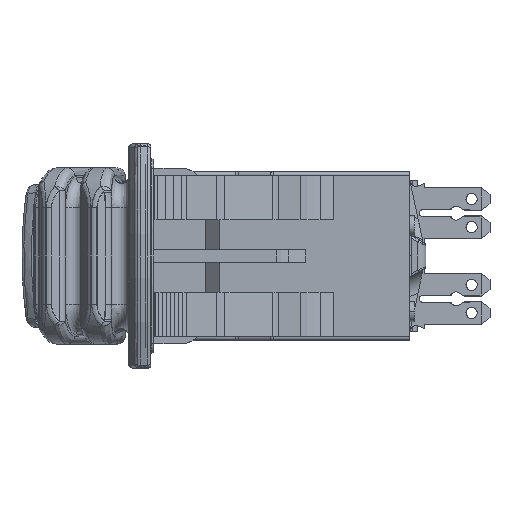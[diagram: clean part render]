
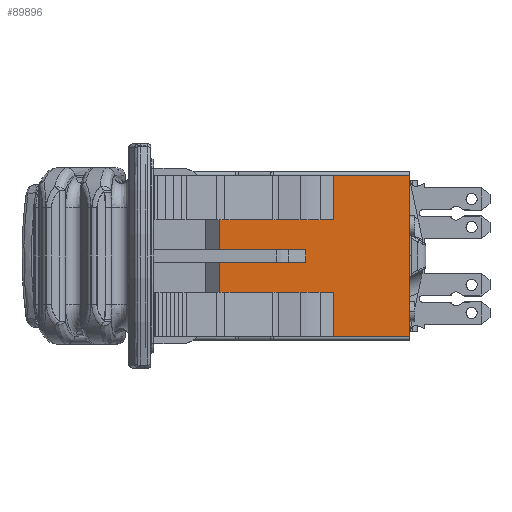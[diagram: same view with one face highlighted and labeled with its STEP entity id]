
A CAD part, left-side view. The second image highlights one B-rep face of the part: STEP entity #89896.
In plain terms, the highlighted planar face has unit normal (-1, 0, 0).
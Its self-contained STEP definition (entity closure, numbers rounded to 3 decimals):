
#13859=DIRECTION('',(0.,0.,1.));
#13860=VECTOR('',#13859,20.2);
#13861=CARTESIAN_POINT('',(-20.5,0.,-10.1));
#13862=LINE('',#13861,#13860);
#27696=DIRECTION('',(0.,-1.,0.));
#27697=VECTOR('',#27696,4.619);
#27698=CARTESIAN_POINT('',(-20.5,21.633,-4.5));
#27699=LINE('',#27698,#27697);
#27908=DIRECTION('',(0.,-1.,0.));
#27909=VECTOR('',#27908,4.625);
#27910=CARTESIAN_POINT('',(-20.5,14.125,-4.5));
#27911=LINE('',#27910,#27909);
#28044=DIRECTION('',(0.,1.,0.));
#28045=VECTOR('',#28044,4.625);
#28046=CARTESIAN_POINT('',(-20.5,9.5,-10.));
#28047=LINE('',#28046,#28045);
#28149=DIRECTION('',(0.,0.,1.));
#28150=VECTOR('',#28149,5.5);
#28151=CARTESIAN_POINT('',(-20.5,14.125,-10.));
#28152=LINE('',#28151,#28150);
#28153=DIRECTION('',(0.,0.,1.));
#28154=VECTOR('',#28153,5.5);
#28155=CARTESIAN_POINT('',(-20.5,9.5,-10.));
#28156=LINE('',#28155,#28154);
#28157=DIRECTION('',(0.,0.,1.));
#28158=VECTOR('',#28157,5.5);
#28159=CARTESIAN_POINT('',(-20.5,14.125,4.5));
#28160=LINE('',#28159,#28158);
#28161=DIRECTION('',(0.,0.,1.));
#28162=VECTOR('',#28161,5.5);
#28163=CARTESIAN_POINT('',(-20.5,9.5,4.5));
#28164=LINE('',#28163,#28162);
#28165=DIRECTION('',(0.,1.,0.));
#28166=VECTOR('',#28165,17.014);
#28167=CARTESIAN_POINT('',(-20.5,0.,-10.1));
#28168=LINE('',#28167,#28166);
#28169=DIRECTION('',(0.,0.,-1.));
#28170=VECTOR('',#28169,5.6);
#28171=CARTESIAN_POINT('',(-20.5,17.014,-4.5));
#28172=LINE('',#28171,#28170);
#28173=DIRECTION('',(0.,-1.,0.));
#28174=VECTOR('',#28173,2.167);
#28175=CARTESIAN_POINT('',(-20.5,23.8,-4.5));
#28176=LINE('',#28175,#28174);
#28177=DIRECTION('',(0.,0.,1.));
#28178=VECTOR('',#28177,3.75);
#28179=CARTESIAN_POINT('',(-20.5,23.8,-4.5));
#28180=LINE('',#28179,#28178);
#28181=DIRECTION('',(0.,-1.,0.));
#28182=VECTOR('',#28181,10.8);
#28183=CARTESIAN_POINT('',(-20.5,23.8,-0.75));
#28184=LINE('',#28183,#28182);
#28185=DIRECTION('',(0.,0.,1.));
#28186=VECTOR('',#28185,1.5);
#28187=CARTESIAN_POINT('',(-20.5,13.,-0.75));
#28188=LINE('',#28187,#28186);
#28189=DIRECTION('',(0.,-1.,0.));
#28190=VECTOR('',#28189,10.8);
#28191=CARTESIAN_POINT('',(-20.5,23.8,0.75));
#28192=LINE('',#28191,#28190);
#28193=DIRECTION('',(0.,0.,1.));
#28194=VECTOR('',#28193,3.75);
#28195=CARTESIAN_POINT('',(-20.5,23.8,0.75));
#28196=LINE('',#28195,#28194);
#28197=DIRECTION('',(0.,-1.,0.));
#28198=VECTOR('',#28197,2.167);
#28199=CARTESIAN_POINT('',(-20.5,23.8,4.5));
#28200=LINE('',#28199,#28198);
#28201=DIRECTION('',(0.,0.,-1.));
#28202=VECTOR('',#28201,5.6);
#28203=CARTESIAN_POINT('',(-20.5,17.014,10.1));
#28204=LINE('',#28203,#28202);
#28205=DIRECTION('',(0.,-1.,0.));
#28206=VECTOR('',#28205,17.014);
#28207=CARTESIAN_POINT('',(-20.5,17.014,10.1));
#28208=LINE('',#28207,#28206);
#28271=DIRECTION('',(0.,1.,0.));
#28272=VECTOR('',#28271,4.625);
#28273=CARTESIAN_POINT('',(-20.5,9.5,4.5));
#28274=LINE('',#28273,#28272);
#28491=DIRECTION('',(0.,-1.,0.));
#28492=VECTOR('',#28491,4.625);
#28493=CARTESIAN_POINT('',(-20.5,14.125,10.));
#28494=LINE('',#28493,#28492);
#28616=DIRECTION('',(0.,1.,0.));
#28617=VECTOR('',#28616,4.619);
#28618=CARTESIAN_POINT('',(-20.5,17.014,4.5));
#28619=LINE('',#28618,#28617);
#38722=CARTESIAN_POINT('',(-20.5,23.8,-0.75));
#38723=CARTESIAN_POINT('',(-20.5,13.,-0.75));
#38724=VERTEX_POINT('',#38722);
#38725=VERTEX_POINT('',#38723);
#38726=CARTESIAN_POINT('',(-20.5,23.8,0.75));
#38727=CARTESIAN_POINT('',(-20.5,13.,0.75));
#38728=VERTEX_POINT('',#38726);
#38729=VERTEX_POINT('',#38727);
#38866=CARTESIAN_POINT('',(-20.5,9.5,-10.));
#38867=CARTESIAN_POINT('',(-20.5,9.5,-4.5));
#38868=VERTEX_POINT('',#38866);
#38869=VERTEX_POINT('',#38867);
#38870=CARTESIAN_POINT('',(-20.5,23.8,-4.5));
#38871=CARTESIAN_POINT('',(-20.5,21.633,-4.5));
#38872=VERTEX_POINT('',#38870);
#38873=VERTEX_POINT('',#38871);
#39116=CARTESIAN_POINT('',(-20.5,9.5,4.5));
#39117=CARTESIAN_POINT('',(-20.5,9.5,10.));
#39118=VERTEX_POINT('',#39116);
#39119=VERTEX_POINT('',#39117);
#39128=CARTESIAN_POINT('',(-20.5,23.8,4.5));
#39129=CARTESIAN_POINT('',(-20.5,21.633,4.5));
#39130=VERTEX_POINT('',#39128);
#39131=VERTEX_POINT('',#39129);
#42056=CARTESIAN_POINT('',(-20.5,14.125,-10.));
#42057=CARTESIAN_POINT('',(-20.5,14.125,-4.5));
#42058=VERTEX_POINT('',#42056);
#42059=VERTEX_POINT('',#42057);
#42069=CARTESIAN_POINT('',(-20.5,14.125,4.5));
#42071=VERTEX_POINT('',#42069);
#42072=CARTESIAN_POINT('',(-20.5,14.125,10.));
#42074=VERTEX_POINT('',#42072);
#42317=CARTESIAN_POINT('',(-20.5,17.014,-4.5));
#42319=VERTEX_POINT('',#42317);
#42320=CARTESIAN_POINT('',(-20.5,17.014,4.5));
#42322=VERTEX_POINT('',#42320);
#42382=CARTESIAN_POINT('',(-20.5,17.014,-10.1));
#42383=VERTEX_POINT('',#42382);
#42384=CARTESIAN_POINT('',(-20.5,0.,-10.1));
#42386=VERTEX_POINT('',#42384);
#42389=CARTESIAN_POINT('',(-20.5,0.,10.1));
#42391=VERTEX_POINT('',#42389);
#42392=CARTESIAN_POINT('',(-20.5,17.014,10.1));
#42393=VERTEX_POINT('',#42392);
#89848=CARTESIAN_POINT('',(-20.5,17.2,-10.5));
#89849=DIRECTION('',(-1.,0.,0.));
#89850=DIRECTION('',(0.,-1.,0.));
#89851=AXIS2_PLACEMENT_3D('',#89848,#89849,#89850);
#89852=PLANE('',#89851);
#89854=ORIENTED_EDGE('',*,*,#89853,.T.);
#89856=ORIENTED_EDGE('',*,*,#89855,.F.);
#89857=ORIENTED_EDGE('',*,*,#89380,.F.);
#89858=ORIENTED_EDGE('',*,*,#89560,.F.);
#89860=ORIENTED_EDGE('',*,*,#89859,.T.);
#89862=ORIENTED_EDGE('',*,*,#89861,.T.);
#89864=ORIENTED_EDGE('',*,*,#89863,.T.);
#89866=ORIENTED_EDGE('',*,*,#89865,.F.);
#89868=ORIENTED_EDGE('',*,*,#89867,.T.);
#89870=ORIENTED_EDGE('',*,*,#89869,.T.);
#89872=ORIENTED_EDGE('',*,*,#89871,.F.);
#89874=ORIENTED_EDGE('',*,*,#89873,.F.);
#89875=ORIENTED_EDGE('',*,*,#72536,.T.);
#89876=ORIENTED_EDGE('',*,*,#72566,.F.);
#89877=EDGE_LOOP('',(#89854,#89856,#89857,#89858,#89860,#89862,#89864,#89866,
#89868,#89870,#89872,#89874,#89875,#89876));
#89878=FACE_OUTER_BOUND('',#89877,.F.);
#89880=ORIENTED_EDGE('',*,*,#89879,.F.);
#89882=ORIENTED_EDGE('',*,*,#89881,.F.);
#89884=ORIENTED_EDGE('',*,*,#89883,.T.);
#89886=ORIENTED_EDGE('',*,*,#89885,.F.);
#89887=EDGE_LOOP('',(#89880,#89882,#89884,#89886));
#89888=FACE_BOUND('',#89887,.F.);
#89889=ORIENTED_EDGE('',*,*,#89842,.F.);
#89890=ORIENTED_EDGE('',*,*,#89681,.F.);
#89892=ORIENTED_EDGE('',*,*,#89891,.T.);
#89893=ORIENTED_EDGE('',*,*,#89582,.F.);
#89894=EDGE_LOOP('',(#89889,#89890,#89892,#89893));
#89895=FACE_BOUND('',#89894,.F.);
#72536=EDGE_CURVE('',#42393,#42391,#28208,.T.);
#72566=EDGE_CURVE('',#42386,#42391,#13862,.T.);
#89380=EDGE_CURVE('',#38873,#42319,#27699,.T.);
#89560=EDGE_CURVE('',#38872,#38873,#28176,.T.);
#89582=EDGE_CURVE('',#42059,#38869,#27911,.T.);
#89681=EDGE_CURVE('',#38868,#42058,#28047,.T.);
#89842=EDGE_CURVE('',#42058,#42059,#28152,.T.);
#89853=EDGE_CURVE('',#42386,#42383,#28168,.T.);
#89855=EDGE_CURVE('',#42319,#42383,#28172,.T.);
#89859=EDGE_CURVE('',#38872,#38724,#28180,.T.);
#89861=EDGE_CURVE('',#38724,#38725,#28184,.T.);
#89863=EDGE_CURVE('',#38725,#38729,#28188,.T.);
#89865=EDGE_CURVE('',#38728,#38729,#28192,.T.);
#89867=EDGE_CURVE('',#38728,#39130,#28196,.T.);
#89869=EDGE_CURVE('',#39130,#39131,#28200,.T.);
#89871=EDGE_CURVE('',#42322,#39131,#28619,.T.);
#89873=EDGE_CURVE('',#42393,#42322,#28204,.T.);
#89879=EDGE_CURVE('',#42071,#42074,#28160,.T.);
#89881=EDGE_CURVE('',#39118,#42071,#28274,.T.);
#89883=EDGE_CURVE('',#39118,#39119,#28164,.T.);
#89885=EDGE_CURVE('',#42074,#39119,#28494,.T.);
#89891=EDGE_CURVE('',#38868,#38869,#28156,.T.);
#89896=ADVANCED_FACE('',(#89878,#89888,#89895),#89852,.T.);
